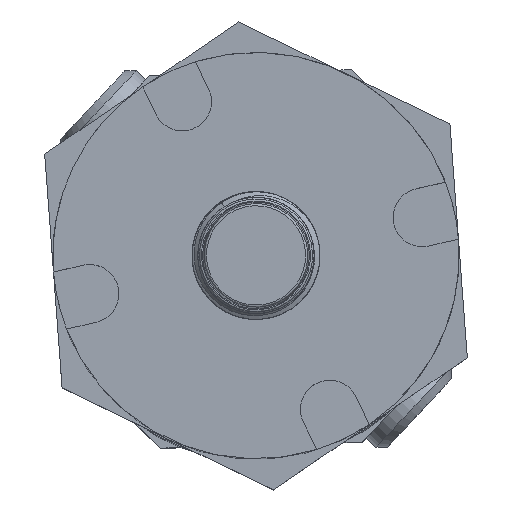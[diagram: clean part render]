
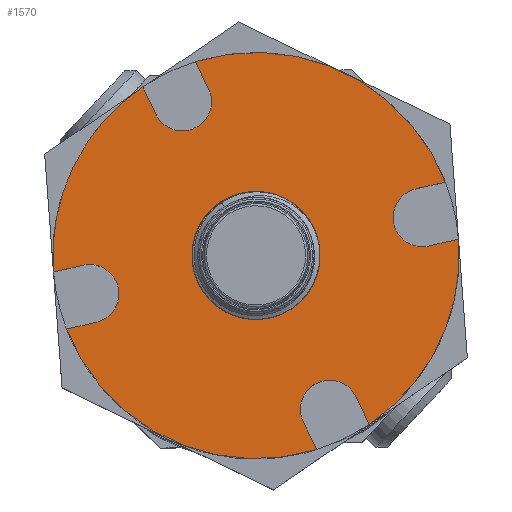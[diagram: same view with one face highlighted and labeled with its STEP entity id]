
A CAD part, top view. The second image highlights one B-rep face of the part: STEP entity #1570.
In plain terms, the highlighted planar face has unit normal (0, 0, 1).
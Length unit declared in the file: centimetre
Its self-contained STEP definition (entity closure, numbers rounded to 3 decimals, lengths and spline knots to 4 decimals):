
#41=FACE_BOUND('',#243,.T.);
#73=PLANE('',#1732);
#144=FACE_OUTER_BOUND('',#242,.T.);
#242=EDGE_LOOP('',(#1220,#1221,#1222,#1223,#1224,#1225,#1226,#1227,#1228,
#1229,#1230,#1231,#1232,#1233,#1234,#1235,#1236));
#243=EDGE_LOOP('',(#1237));
#326=CIRCLE('',#1706,0.275);
#328=CIRCLE('',#1709,0.275);
#329=CIRCLE('',#1711,1.905);
#330=CIRCLE('',#1712,1.905);
#332=CIRCLE('',#1714,1.905);
#333=CIRCLE('',#1715,1.905);
#335=CIRCLE('',#1717,1.905);
#336=CIRCLE('',#1720,0.275);
#337=CIRCLE('',#1726,0.275);
#338=CIRCLE('',#1733,0.53);
#477=LINE('',#3256,#603);
#478=LINE('',#3258,#604);
#479=LINE('',#3260,#605);
#480=LINE('',#3262,#606);
#485=LINE('',#3273,#611);
#486=LINE('',#3275,#612);
#487=LINE('',#3277,#613);
#488=LINE('',#3279,#614);
#603=VECTOR('',#1997,1.);
#604=VECTOR('',#2000,1.);
#605=VECTOR('',#2003,1.);
#606=VECTOR('',#2006,1.);
#611=VECTOR('',#2019,1.);
#612=VECTOR('',#2022,1.);
#613=VECTOR('',#2025,1.);
#614=VECTOR('',#2028,1.);
#720=VERTEX_POINT('',#3199);
#723=VERTEX_POINT('',#3204);
#724=VERTEX_POINT('',#3208);
#727=VERTEX_POINT('',#3213);
#728=VERTEX_POINT('',#3217);
#729=VERTEX_POINT('',#3219);
#730=VERTEX_POINT('',#3222);
#731=VERTEX_POINT('',#3224);
#734=VERTEX_POINT('',#3230);
#735=VERTEX_POINT('',#3232);
#736=VERTEX_POINT('',#3235);
#737=VERTEX_POINT('',#3237);
#740=VERTEX_POINT('',#3243);
#741=VERTEX_POINT('',#3250);
#742=VERTEX_POINT('',#3252);
#743=VERTEX_POINT('',#3264);
#744=VERTEX_POINT('',#3266);
#745=VERTEX_POINT('',#3281);
#885=EDGE_CURVE('',#720,#723,#326,.T.);
#889=EDGE_CURVE('',#724,#727,#328,.T.);
#891=EDGE_CURVE('',#729,#728,#329,.T.);
#894=EDGE_CURVE('',#731,#730,#330,.T.);
#898=EDGE_CURVE('',#735,#734,#332,.T.);
#901=EDGE_CURVE('',#737,#736,#333,.T.);
#905=EDGE_CURVE('',#728,#740,#335,.T.);
#909=EDGE_CURVE('',#742,#741,#336,.T.);
#911=EDGE_CURVE('',#740,#720,#477,.T.);
#912=EDGE_CURVE('',#723,#737,#478,.T.);
#913=EDGE_CURVE('',#736,#742,#479,.T.);
#914=EDGE_CURVE('',#741,#735,#480,.T.);
#916=EDGE_CURVE('',#744,#743,#337,.T.);
#920=EDGE_CURVE('',#743,#729,#485,.T.);
#921=EDGE_CURVE('',#730,#744,#486,.T.);
#922=EDGE_CURVE('',#727,#731,#487,.T.);
#923=EDGE_CURVE('',#734,#724,#488,.T.);
#924=EDGE_CURVE('',#745,#745,#338,.T.);
#1220=ORIENTED_EDGE('',*,*,#923,.T.);
#1221=ORIENTED_EDGE('',*,*,#889,.T.);
#1222=ORIENTED_EDGE('',*,*,#922,.T.);
#1223=ORIENTED_EDGE('',*,*,#894,.T.);
#1224=ORIENTED_EDGE('',*,*,#921,.T.);
#1225=ORIENTED_EDGE('',*,*,#916,.T.);
#1226=ORIENTED_EDGE('',*,*,#920,.T.);
#1227=ORIENTED_EDGE('',*,*,#891,.T.);
#1228=ORIENTED_EDGE('',*,*,#905,.T.);
#1229=ORIENTED_EDGE('',*,*,#911,.T.);
#1230=ORIENTED_EDGE('',*,*,#885,.T.);
#1231=ORIENTED_EDGE('',*,*,#912,.T.);
#1232=ORIENTED_EDGE('',*,*,#901,.T.);
#1233=ORIENTED_EDGE('',*,*,#913,.T.);
#1234=ORIENTED_EDGE('',*,*,#909,.T.);
#1235=ORIENTED_EDGE('',*,*,#914,.T.);
#1236=ORIENTED_EDGE('',*,*,#898,.T.);
#1237=ORIENTED_EDGE('',*,*,#924,.T.);
#1570=ADVANCED_FACE('',(#144,#41),#73,.F.);
#1706=AXIS2_PLACEMENT_3D('',#3206,#1950,#1951);
#1709=AXIS2_PLACEMENT_3D('',#3215,#1958,#1959);
#1711=AXIS2_PLACEMENT_3D('',#3220,#1963,#1964);
#1712=AXIS2_PLACEMENT_3D('',#3225,#1967,#1968);
#1714=AXIS2_PLACEMENT_3D('',#3233,#1973,#1974);
#1715=AXIS2_PLACEMENT_3D('',#3238,#1977,#1978);
#1717=AXIS2_PLACEMENT_3D('',#3245,#1983,#1984);
#1720=AXIS2_PLACEMENT_3D('',#3253,#1992,#1993);
#1726=AXIS2_PLACEMENT_3D('',#3267,#2010,#2011);
#1732=AXIS2_PLACEMENT_3D('',#3280,#2029,#2030);
#1733=AXIS2_PLACEMENT_3D('',#3282,#2031,#2032);
#1950=DIRECTION('center_axis',(0.,0.,
-1.));
#1951=DIRECTION('ref_axis',(0.901,-0.434,0.));
#1958=DIRECTION('center_axis',(0.,0.,
-1.));
#1959=DIRECTION('ref_axis',(0.901,-0.434,0.));
#1963=DIRECTION('center_axis',(0.,0.,
1.));
#1964=DIRECTION('ref_axis',(0.901,-0.434,0.));
#1967=DIRECTION('center_axis',(0.,0.,
1.));
#1968=DIRECTION('ref_axis',(0.901,-0.434,0.));
#1973=DIRECTION('center_axis',(0.,0.,
1.));
#1974=DIRECTION('ref_axis',(0.901,-0.434,0.));
#1977=DIRECTION('center_axis',(0.,0.,
1.));
#1978=DIRECTION('ref_axis',(0.901,-0.434,0.));
#1983=DIRECTION('center_axis',(0.,0.,
1.));
#1984=DIRECTION('ref_axis',(0.901,-0.434,0.));
#1992=DIRECTION('center_axis',(0.,0.,
-1.));
#1993=DIRECTION('ref_axis',(0.901,-0.434,0.));
#1997=DIRECTION('',(0.975,0.224,0.));
#2000=DIRECTION('',(-0.975,-0.224,0.));
#2003=DIRECTION('',(-0.432,0.902,0.));
#2006=DIRECTION('',(0.432,-0.902,0.));
#2010=DIRECTION('center_axis',(0.,0.,
-1.));
#2011=DIRECTION('ref_axis',(0.901,-0.434,0.));
#2019=DIRECTION('',(-0.432,0.902,0.));
#2022=DIRECTION('',(0.432,-0.902,0.));
#2025=DIRECTION('',(0.975,0.224,0.));
#2028=DIRECTION('',(-0.975,-0.224,0.));
#2029=DIRECTION('center_axis',(0.,0.,
-1.));
#2030=DIRECTION('ref_axis',(0.434,0.901,0.));
#2031=DIRECTION('center_axis',(0.,0.,
-1.));
#2032=DIRECTION('ref_axis',(-0.548,0.837,0.));
#3199=CARTESIAN_POINT('',(-1.6384,-0.0945,5.1308));
#3204=CARTESIAN_POINT('',(-1.5156,-0.6295,5.1308));
#3206=CARTESIAN_POINT('Origin',(-1.5602,-0.3581,5.1308));
#3208=CARTESIAN_POINT('',(1.6384,0.0945,5.1308));
#3213=CARTESIAN_POINT('',(1.5156,0.6295,5.1308));
#3215=CARTESIAN_POINT('Origin',(1.5602,0.3581,5.1308));
#3217=CARTESIAN_POINT('',(-1.7161,0.8271,5.1308));
#3219=CARTESIAN_POINT('',(-1.0622,1.5813,5.1308));
#3220=CARTESIAN_POINT('Origin',(0.,0.,
5.1308));
#3222=CARTESIAN_POINT('',(-0.5672,1.8186,5.1308));
#3224=CARTESIAN_POINT('',(1.776,0.6892,5.1308));
#3225=CARTESIAN_POINT('Origin',(0.,0.,
5.1308));
#3230=CARTESIAN_POINT('',(1.8987,0.1542,5.1308));
#3232=CARTESIAN_POINT('',(1.0622,-1.5813,5.1308));
#3233=CARTESIAN_POINT('Origin',(0.,0.,
5.1308));
#3235=CARTESIAN_POINT('',(0.5672,-1.8186,5.1308));
#3237=CARTESIAN_POINT('',(-1.776,-0.6892,5.1308));
#3238=CARTESIAN_POINT('Origin',(0.,0.,
5.1308));
#3243=CARTESIAN_POINT('',(-1.8987,-0.1542,5.1308));
#3245=CARTESIAN_POINT('Origin',(0.,0.,
5.1308));
#3250=CARTESIAN_POINT('',(0.9468,-1.3405,5.1308));
#3252=CARTESIAN_POINT('',(0.4518,-1.5777,5.1308));
#3253=CARTESIAN_POINT('Origin',(0.6918,-1.4436,5.1308));
#3256=CARTESIAN_POINT('',(-0.9898,0.0544,5.1308));
#3258=CARTESIAN_POINT('',(-0.7187,-0.4466,5.1308));
#3260=CARTESIAN_POINT('',(0.1642,-0.9776,5.1308));
#3262=CARTESIAN_POINT('',(0.5934,-0.6032,5.1308));
#3264=CARTESIAN_POINT('',(-0.9468,1.3405,5.1308));
#3266=CARTESIAN_POINT('',(-0.4518,1.5777,5.1308));
#3267=CARTESIAN_POINT('Origin',(-0.6918,1.4436,5.1308));
#3273=CARTESIAN_POINT('',(-0.6592,0.7403,5.1308));
#3275=CARTESIAN_POINT('',(-0.0984,0.8404,5.1308));
#3277=CARTESIAN_POINT('',(0.867,0.4806,5.1308));
#3279=CARTESIAN_POINT('',(0.8415,-0.0885,5.1308));
#3280=CARTESIAN_POINT('Origin',(0.,0.,
5.1308));
#3281=CARTESIAN_POINT('',(0.2903,-0.4434,5.1308));
#3282=CARTESIAN_POINT('Origin',(0.,0.,
5.1308));
